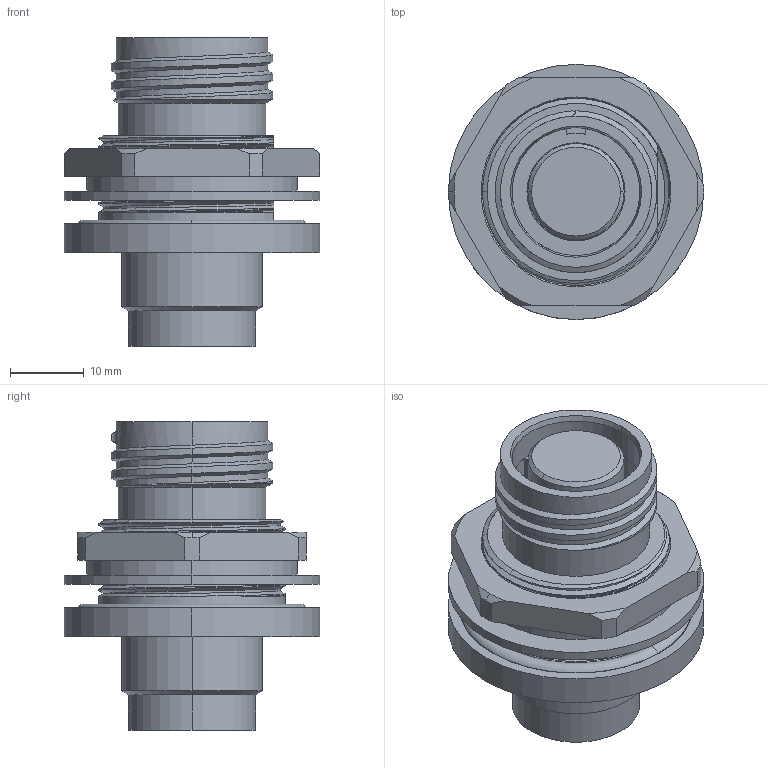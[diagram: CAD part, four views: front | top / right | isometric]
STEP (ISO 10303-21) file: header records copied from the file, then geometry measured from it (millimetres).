
FILE_DESCRIPTION (( 'STEP AP214' ), '1' );
FILE_NAME ('QLINK-RJTX-13XX-S00.STEP', '2025-09-30T21:37:05', ( '' ), ( '' ), 'SwSTEP 2.0', 'SolidWorks 2024', '' );
FILE_SCHEMA (( 'AUTOMOTIVE_DESIGN' ));
Length unit declared in the file: inch
Products named in the file (1): QLINK-RJTX-13XX-S00
Bounding box: 34.67 x 34.67 x 41.91 mm (x, y, z)
Volume: 16712.4 mm3; surface area: 10873.9 mm2
Topology: 3 solids, 3 shells, 188 faces, 495 edges, 321 vertices
Faces by surface type: cylinder 80, plane 34, bspline 33, cone 27, torus 14
Entity records: 17016 total; most frequent: CARTESIAN_POINT 12754, ORIENTED_EDGE 990, DIRECTION 784, EDGE_CURVE 495, VERTEX_POINT 321, AXIS2_PLACEMENT_3D 319, EDGE_LOOP 206, ADVANCED_FACE 188
